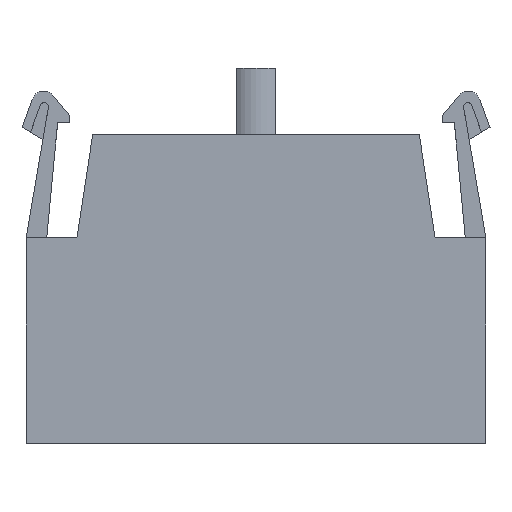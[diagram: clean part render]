
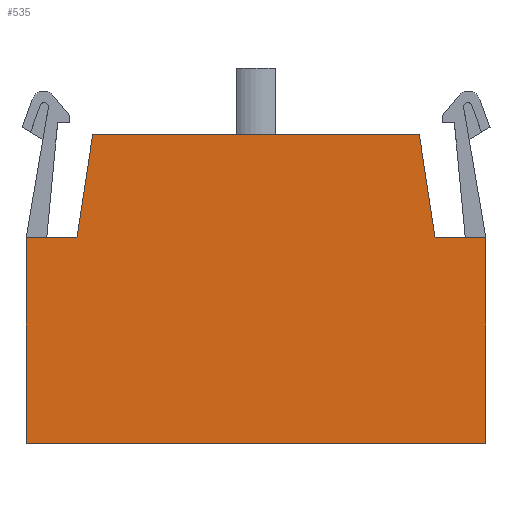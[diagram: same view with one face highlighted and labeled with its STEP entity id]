
A CAD part, top view. The second image highlights one B-rep face of the part: STEP entity #535.
In plain terms, the highlighted planar face has unit normal (0, 0, 1).
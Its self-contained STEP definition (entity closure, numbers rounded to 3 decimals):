
#68 = EDGE_CURVE ( 'NONE', #1526, #1587, #327, .T. ) ;
#82 = CARTESIAN_POINT ( 'NONE',  ( -14.8, 4.25, 4.95 ) ) ;
#97 = CARTESIAN_POINT ( 'NONE',  ( 14.8, 4.25, 4.95 ) ) ;
#142 = EDGE_CURVE ( 'NONE', #3171, #436, #2394, .T. ) ;
#188 = CARTESIAN_POINT ( 'NONE',  ( 19., 4.25, 4.95 ) ) ;
#202 = CARTESIAN_POINT ( 'NONE',  ( -14.8, 4.25, 4.95 ) ) ;
#222 = DIRECTION ( 'NONE',  ( 0., 1., 0. ) ) ;
#272 = EDGE_CURVE ( 'NONE', #436, #3607, #3505, .T. ) ;
#281 = DIRECTION ( 'NONE',  ( -0.151, 0.989, 0. ) ) ;
#327 = LINE ( 'NONE', #1700, #1058 ) ;
#344 = LINE ( 'NONE', #188, #1079 ) ;
#436 = VERTEX_POINT ( 'NONE', #2652 ) ;
#499 = LINE ( 'NONE', #2277, #1218 ) ;
#525 = ORIENTED_EDGE ( 'NONE', *, *, #142, .T. ) ;
#535 = ADVANCED_FACE ( 'NONE', ( #2654 ), #1847, .T. ) ;
#686 = CARTESIAN_POINT ( 'NONE',  ( 19., 4.25, 4.95 ) ) ;
#766 = EDGE_CURVE ( 'NONE', #2333, #3171, #1825, .T. ) ;
#776 = VECTOR ( 'NONE', #1103, 1000. ) ;
#1030 = DIRECTION ( 'NONE',  ( 1., 0., 0. ) ) ;
#1041 = CARTESIAN_POINT ( 'NONE',  ( 19., -12.75, 4.95 ) ) ;
#1058 = VECTOR ( 'NONE', #1929, 1000. ) ;
#1069 = ORIENTED_EDGE ( 'NONE', *, *, #766, .T. ) ;
#1079 = VECTOR ( 'NONE', #2866, 1000. ) ;
#1103 = DIRECTION ( 'NONE',  ( -1., 0., 0. ) ) ;
#1107 = CARTESIAN_POINT ( 'NONE',  ( 13.5, 12.75, 4.95 ) ) ;
#1203 = ORIENTED_EDGE ( 'NONE', *, *, #3342, .T. ) ;
#1218 = VECTOR ( 'NONE', #3327, 1000. ) ;
#1305 = EDGE_CURVE ( 'NONE', #3077, #2333, #344, .T. ) ;
#1383 = AXIS2_PLACEMENT_3D ( 'NONE', #1682, #1641, #1630 ) ;
#1425 = EDGE_CURVE ( 'NONE', #3891, #3077, #2317, .T. ) ;
#1485 = EDGE_CURVE ( 'NONE', #3607, #1526, #499, .T. ) ;
#1522 = CARTESIAN_POINT ( 'NONE',  ( -19., 4.25, 4.95 ) ) ;
#1526 = VERTEX_POINT ( 'NONE', #1522 ) ;
#1587 = VERTEX_POINT ( 'NONE', #3479 ) ;
#1630 = DIRECTION ( 'NONE',  ( 1., 0., 0. ) ) ;
#1641 = DIRECTION ( 'NONE',  ( 0., 0., 1. ) ) ;
#1682 = CARTESIAN_POINT ( 'NONE',  ( 19., 4.25, 4.95 ) ) ;
#1700 = CARTESIAN_POINT ( 'NONE',  ( -19., -12.75, 4.95 ) ) ;
#1780 = CARTESIAN_POINT ( 'NONE',  ( 13.5, 12.75, 4.95 ) ) ;
#1825 = LINE ( 'NONE', #97, #3406 ) ;
#1847 = PLANE ( 'NONE',  #1383 ) ;
#1885 = ORIENTED_EDGE ( 'NONE', *, *, #272, .T. ) ;
#1929 = DIRECTION ( 'NONE',  ( 0., -1., 0. ) ) ;
#2149 = ORIENTED_EDGE ( 'NONE', *, *, #68, .T. ) ;
#2277 = CARTESIAN_POINT ( 'NONE',  ( -19., 4.25, 4.95 ) ) ;
#2317 = LINE ( 'NONE', #3534, #3900 ) ;
#2333 = VERTEX_POINT ( 'NONE', #3731 ) ;
#2394 = LINE ( 'NONE', #1107, #776 ) ;
#2652 = CARTESIAN_POINT ( 'NONE',  ( -13.5, 12.75, 4.95 ) ) ;
#2654 = FACE_OUTER_BOUND ( 'NONE', #2666, .T. ) ;
#2666 = EDGE_LOOP ( 'NONE', ( #3090, #3631, #1069, #525, #1885, #3504, #2149, #1203 ) ) ;
#2704 = VECTOR ( 'NONE', #3876, 1000. ) ;
#2866 = DIRECTION ( 'NONE',  ( -1., 0., 0. ) ) ;
#2889 = LINE ( 'NONE', #3046, #2993 ) ;
#2993 = VECTOR ( 'NONE', #1030, 1000. ) ;
#3046 = CARTESIAN_POINT ( 'NONE',  ( 19., -12.75, 4.95 ) ) ;
#3077 = VERTEX_POINT ( 'NONE', #686 ) ;
#3090 = ORIENTED_EDGE ( 'NONE', *, *, #1425, .T. ) ;
#3171 = VERTEX_POINT ( 'NONE', #1780 ) ;
#3327 = DIRECTION ( 'NONE',  ( -1., 0., 0. ) ) ;
#3342 = EDGE_CURVE ( 'NONE', #1587, #3891, #2889, .T. ) ;
#3406 = VECTOR ( 'NONE', #281, 1000. ) ;
#3479 = CARTESIAN_POINT ( 'NONE',  ( -19., -12.75, 4.95 ) ) ;
#3504 = ORIENTED_EDGE ( 'NONE', *, *, #1485, .T. ) ;
#3505 = LINE ( 'NONE', #82, #2704 ) ;
#3534 = CARTESIAN_POINT ( 'NONE',  ( 19., -12.75, 4.95 ) ) ;
#3607 = VERTEX_POINT ( 'NONE', #202 ) ;
#3631 = ORIENTED_EDGE ( 'NONE', *, *, #1305, .T. ) ;
#3731 = CARTESIAN_POINT ( 'NONE',  ( 14.8, 4.25, 4.95 ) ) ;
#3876 = DIRECTION ( 'NONE',  ( -0.151, -0.989, 0. ) ) ;
#3891 = VERTEX_POINT ( 'NONE', #1041 ) ;
#3900 = VECTOR ( 'NONE', #222, 1000. ) ;
